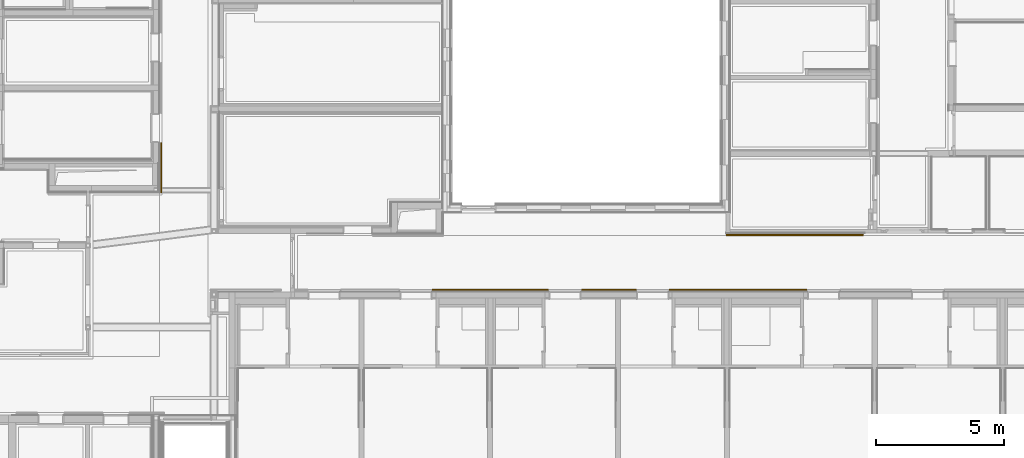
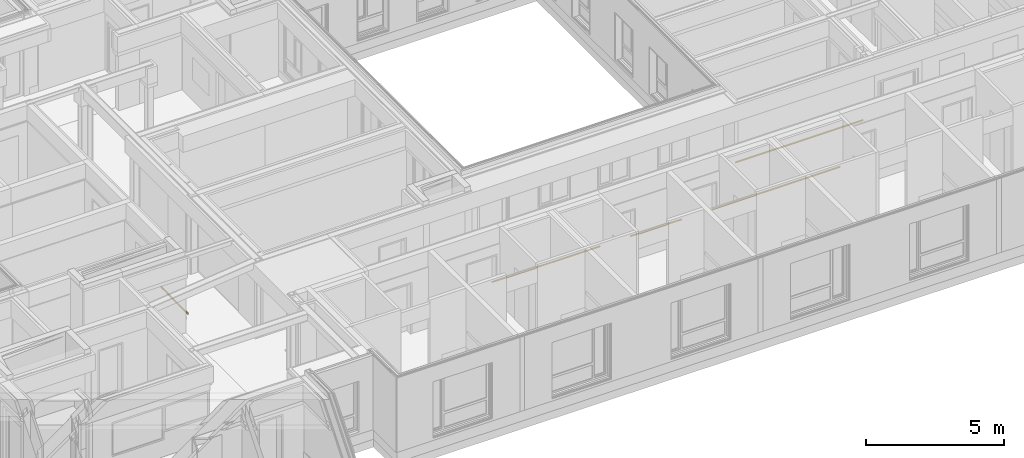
# One storey, part 200 of 207: 5 railings, 5 elements without a shape of their own.
"""IFC4 building model written with IfcOpenShell, lengths in metres."""

from ifc_helpers import new_model, entity, si_unit, converted_unit, derived_unit, frame, origin, place, context, subcontext, project, spatial, faceted_brep, material, element, aggregate, save


model = new_model("IFC4")

# Units and contexts
model_context = context("Model", 3, precision=1e-05, world=origin())
body_context = subcontext(model_context, "Body", "Model", "MODEL_VIEW")
ifc_project = project(units=[si_unit("LENGTHUNIT", "METRE"), si_unit("AREAUNIT", "SQUARE_METRE"), si_unit("VOLUMEUNIT", "CUBIC_METRE"), si_unit("MASSUNIT", "GRAM", prefix="KILO"), converted_unit("PLANEANGLEUNIT", "DEGREE", entity("IfcPlaneAngleMeasure", 0.0174532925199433), si_unit("PLANEANGLEUNIT", "RADIAN"), dimensions=[0, 0, 0, 0, 0, 0, 0]), derived_unit("THERMALTRANSMITTANCEUNIT", [(si_unit("POWERUNIT", "WATT"), 1), (si_unit("THERMODYNAMICTEMPERATUREUNIT", "KELVIN"), -1), (si_unit("LENGTHUNIT", "METRE"), -2)]), derived_unit("VOLUMETRICFLOWRATEUNIT", [(si_unit("LENGTHUNIT", "METRE"), 3), (converted_unit("TIMEUNIT", "hour", entity("IfcTimeMeasure", 3600.0), si_unit("TIMEUNIT", "SECOND"), dimensions=[0, 0, 1, 0, 0, 0, 0]), -1), (si_unit("LENGTHUNIT", "METRE"), -1)])], contexts=[model_context])

# Site, building, storey
site_placement = place(None, origin())
site = spatial("IfcSite", under=ifc_project, at=site_placement, Name="Psychiatrie Neubau Wunstorf", CompositionType="ELEMENT")
building_placement = place(site_placement, origin())
building = spatial("IfcBuilding", under=site, at=building_placement, Name="Neubau H2 Stationsgebäude", CompositionType="ELEMENT")
storey_placement = place(building_placement, frame((0.0, 0.0, -0.2)))
storey = spatial("IfcBuildingStorey", under=building, at=storey_placement, Name="H2 Ebene 0", CompositionType="ELEMENT", Elevation=-0.2)

# Assembly, railing
assembly_1_placement = place(storey_placement, frame((0.0, 0.0, 0.2)))
assembly_1 = element("IfcElementAssembly", 1, at=assembly_1_placement, inside=storey, Name="Geländer+Abstand", PredefinedType="NOTDEFINED")
ifc_material_1 = material(Name="Holz")
railing_1_placement = place(assembly_1_placement, frame((68.1675, 9.20500005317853, 0.8)))
railing_1 = element("IfcRailing", 2, at=railing_1_placement, material=ifc_material_1, context=body_context, shape_type="Brep", body=[
    faceted_brep([(0.0250000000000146, 0.0, 0.0498968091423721), (0.0293232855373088, 0.0, 0.0495185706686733), (0.0335152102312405, 0.0, 0.0483953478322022), (0.0374484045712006, 0.0, 0.0465612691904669), (0.0410033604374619, 0.0, 0.0440720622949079), (0.0440720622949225, 0.0, 0.0410033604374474), (0.0465612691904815, 0.0, 0.0374484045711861), (0.0483953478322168, 0.0, 0.0335152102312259), (0.0495185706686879, 0.0, 0.0293232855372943), (0.0498968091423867, 0.0, 0.025), (0.0495185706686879, 0.0, 0.0206767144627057), (0.0483953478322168, 0.0, 0.0164847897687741), (0.0465612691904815, 0.0, 0.0125515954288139), (0.0440720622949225, 0.0, 0.00899663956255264), (0.0410033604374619, 0.0, 0.00592793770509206), (0.0374484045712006, 0.0, 0.00343873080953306), (0.0335152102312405, 0.0, 0.00160465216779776), (0.0293232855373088, 0.0, 0.000481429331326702), (0.0250000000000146, 0.0, 0.000103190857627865), (0.0206767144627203, 0.0, 0.000481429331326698), (0.0164847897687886, 0.0, 0.00160465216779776), (0.0125515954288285, 0.0, 0.00343873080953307), (0.00899663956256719, 0.0, 0.00592793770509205), (0.00592793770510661, 0.0, 0.00899663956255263), (0.00343873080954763, 0.0, 0.0125515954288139), (0.00160465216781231, 0.0, 0.0164847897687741), (0.000481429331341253, 0.0, 0.0206767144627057), (0.000103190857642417, 0.0, 0.025), (0.00048142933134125, 0.0, 0.0293232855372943), (0.00160465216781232, 0.0, 0.0335152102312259), (0.00343873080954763, 0.0, 0.0374484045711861), (0.0059279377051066, 0.0, 0.0410033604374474), (0.00899663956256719, 0.0, 0.0440720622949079), (0.0125515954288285, 0.0, 0.0465612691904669), (0.0164847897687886, 0.0, 0.0483953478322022), (0.0206767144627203, 0.0, 0.0495185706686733), (0.0250000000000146, 1.93857165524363, 0.0498968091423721), (0.0206767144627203, 1.93857165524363, 0.0495185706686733), (0.0164847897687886, 1.93857165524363, 0.0483953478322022), (0.0125515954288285, 1.93857165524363, 0.0465612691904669), (0.00899663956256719, 1.93857165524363, 0.0440720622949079), (0.0059279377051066, 1.93857165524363, 0.0410033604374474), (0.00343873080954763, 1.93857165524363, 0.0374484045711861), (0.00160465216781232, 1.93857165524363, 0.0335152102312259), (0.00048142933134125, 1.93857165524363, 0.0293232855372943), (0.000103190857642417, 1.93857165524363, 0.025), (0.000481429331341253, 1.93857165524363, 0.0206767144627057), (0.00160465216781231, 1.93857165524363, 0.0164847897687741), (0.00343873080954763, 1.93857165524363, 0.0125515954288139), (0.00592793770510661, 1.93857165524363, 0.00899663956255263), (0.00899663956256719, 1.93857165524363, 0.00592793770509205), (0.0125515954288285, 1.93857165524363, 0.00343873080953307), (0.0164847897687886, 1.93857165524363, 0.00160465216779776), (0.0206767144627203, 1.93857165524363, 0.000481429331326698), (0.0250000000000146, 1.93857165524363, 0.000103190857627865), (0.0293232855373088, 1.93857165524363, 0.000481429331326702), (0.0335152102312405, 1.93857165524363, 0.00160465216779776), (0.0374484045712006, 1.93857165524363, 0.00343873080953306), (0.0410033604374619, 1.93857165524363, 0.00592793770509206), (0.0440720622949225, 1.93857165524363, 0.00899663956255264), (0.0465612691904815, 1.93857165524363, 0.0125515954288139), (0.0483953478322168, 1.93857165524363, 0.0164847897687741), (0.0495185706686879, 1.93857165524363, 0.0206767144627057), (0.0498968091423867, 1.93857165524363, 0.025), (0.0495185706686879, 1.93857165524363, 0.0293232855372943), (0.0483953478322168, 1.93857165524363, 0.0335152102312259), (0.0465612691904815, 1.93857165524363, 0.0374484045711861), (0.0440720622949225, 1.93857165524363, 0.0410033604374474), (0.0410033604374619, 1.93857165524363, 0.0440720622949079), (0.0374484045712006, 1.93857165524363, 0.0465612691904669), (0.0335152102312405, 1.93857165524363, 0.0483953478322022), (0.0293232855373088, 1.93857165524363, 0.0495185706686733)], [[[0, 1, 2, 3, 4, 5, 6, 7, 8, 9, 10, 11, 12, 13, 14, 15, 16, 17, 18, 19, 20, 21, 22, 23, 24, 25, 26, 27, 28, 29, 30, 31, 32, 33, 34, 35]], [[36, 37, 38, 39, 40, 41, 42, 43, 44, 45, 46, 47, 48, 49, 50, 51, 52, 53, 54, 55, 56, 57, 58, 59, 60, 61, 62, 63, 64, 65, 66, 67, 68, 69, 70, 71]], [[1, 0, 36, 71]], [[2, 1, 71, 70]], [[3, 2, 70, 69]], [[4, 3, 69, 68]], [[5, 4, 68, 67]], [[6, 5, 67, 66]], [[7, 6, 66, 65]], [[8, 7, 65, 64]], [[9, 8, 64, 63]], [[10, 9, 63, 62]], [[11, 10, 62, 61]], [[12, 11, 61, 60]], [[13, 12, 60, 59]], [[14, 13, 59, 58]], [[15, 14, 58, 57]], [[16, 15, 57, 56]], [[17, 16, 56, 55]], [[18, 17, 55, 54]], [[19, 18, 54, 53]], [[20, 19, 53, 52]], [[21, 20, 52, 51]], [[22, 21, 51, 50]], [[23, 22, 50, 49]], [[24, 23, 49, 48]], [[25, 24, 48, 47]], [[26, 25, 47, 46]], [[27, 26, 46, 45]], [[28, 27, 45, 44]], [[29, 28, 44, 43]], [[30, 29, 43, 42]], [[31, 30, 42, 41]], [[32, 31, 41, 40]], [[33, 32, 40, 39]], [[34, 33, 39, 38]], [[35, 34, 38, 37]], [[0, 35, 37, 36]]], orient=[[False], [False], [False], [False], [False], [False], [False], [False], [False], [False], [False], [False], [False], [False], [False], [False], [False], [False], [False], [False], [False], [False], [False], [False], [False], [False], [False], [False], [False], [False], [False], [False], [False], [False], [False], [False], [False], [False]]),
])
aggregate(assembly_1, [railing_1])

assembly_2_placement = place(storey_placement, frame((0.0, 0.0, 0.2)))
assembly_2 = element("IfcElementAssembly", 3, at=assembly_2_placement, inside=storey, Name="Geländer+Abstand", PredefinedType="NOTDEFINED")
ifc_material_2 = material(Name="Holz")
railing_2_placement = place(assembly_2_placement, frame((78.765, 5.3825, 0.8)))
railing_2 = element("IfcRailing", 4, at=railing_2_placement, material=ifc_material_2, context=body_context, shape_type="Brep", body=[
    faceted_brep([(4.51999999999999, 0.000103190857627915, 0.025), (4.51999999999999, 0.000481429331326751, 0.0293232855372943), (4.51999999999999, 0.00160465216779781, 0.0335152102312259), (4.51999999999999, 0.00343873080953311, 0.0374484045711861), (4.51999999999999, 0.00592793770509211, 0.0410033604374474), (4.51999999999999, 0.00899663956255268, 0.0440720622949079), (4.51999999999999, 0.012551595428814, 0.0465612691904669), (4.51999999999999, 0.0164847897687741, 0.0483953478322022), (4.51999999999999, 0.0206767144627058, 0.0495185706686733), (4.51999999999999, 0.025, 0.0498968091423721), (4.51999999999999, 0.0293232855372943, 0.0495185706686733), (4.51999999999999, 0.033515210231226, 0.0483953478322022), (4.51999999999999, 0.0374484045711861, 0.0465612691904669), (4.51999999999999, 0.0410033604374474, 0.0440720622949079), (4.51999999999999, 0.044072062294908, 0.0410033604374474), (4.51999999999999, 0.046561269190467, 0.0374484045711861), (4.51999999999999, 0.0483953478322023, 0.0335152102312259), (4.51999999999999, 0.0495185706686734, 0.0293232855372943), (4.51999999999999, 0.0498968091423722, 0.025), (4.51999999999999, 0.0495185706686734, 0.0206767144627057), (4.51999999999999, 0.0483953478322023, 0.0164847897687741), (4.51999999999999, 0.046561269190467, 0.0125515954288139), (4.51999999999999, 0.044072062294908, 0.00899663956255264), (4.51999999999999, 0.0410033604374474, 0.00592793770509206), (4.51999999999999, 0.0374484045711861, 0.00343873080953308), (4.51999999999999, 0.033515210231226, 0.00160465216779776), (4.51999999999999, 0.0293232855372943, 0.000481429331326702), (4.51999999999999, 0.0250000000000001, 0.000103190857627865), (4.51999999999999, 0.0206767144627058, 0.000481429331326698), (4.51999999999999, 0.0164847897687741, 0.00160465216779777), (4.51999999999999, 0.012551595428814, 0.00343873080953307), (4.51999999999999, 0.00899663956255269, 0.00592793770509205), (4.51999999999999, 0.00592793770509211, 0.00899663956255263), (4.51999999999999, 0.00343873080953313, 0.0125515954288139), (4.51999999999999, 0.00160465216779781, 0.0164847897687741), (4.51999999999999, 0.000481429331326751, 0.0206767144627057), (0.0, 0.000103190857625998, 0.025), (0.0, 0.000481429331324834, 0.0206767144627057), (0.0, 0.0016046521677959, 0.0164847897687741), (0.0, 0.00343873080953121, 0.0125515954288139), (0.0, 0.00592793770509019, 0.00899663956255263), (0.0, 0.00899663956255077, 0.00592793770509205), (0.0, 0.0125515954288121, 0.00343873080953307), (0.0, 0.0164847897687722, 0.00160465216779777), (0.0, 0.0206767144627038, 0.000481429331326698), (0.0, 0.0249999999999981, 0.000103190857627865), (0.0, 0.0293232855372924, 0.000481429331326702), (0.0, 0.0335152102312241, 0.00160465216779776), (0.0, 0.0374484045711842, 0.00343873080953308), (0.0, 0.0410033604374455, 0.00592793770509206), (0.0, 0.0440720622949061, 0.00899663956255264), (0.0, 0.0465612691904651, 0.0125515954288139), (0.0, 0.0483953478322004, 0.0164847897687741), (0.0, 0.0495185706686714, 0.0206767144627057), (0.0, 0.0498968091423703, 0.025), (0.0, 0.0495185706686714, 0.0293232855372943), (0.0, 0.0483953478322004, 0.0335152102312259), (0.0, 0.0465612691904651, 0.0374484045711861), (0.0, 0.0440720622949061, 0.0410033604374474), (0.0, 0.0410033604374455, 0.0440720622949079), (0.0, 0.0374484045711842, 0.0465612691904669), (0.0, 0.0335152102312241, 0.0483953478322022), (0.0, 0.0293232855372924, 0.0495185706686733), (0.0, 0.0249999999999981, 0.0498968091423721), (0.0, 0.0206767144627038, 0.0495185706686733), (0.0, 0.0164847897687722, 0.0483953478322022), (0.0, 0.0125515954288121, 0.0465612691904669), (0.0, 0.00899663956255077, 0.0440720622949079), (0.0, 0.00592793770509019, 0.0410033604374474), (0.0, 0.0034387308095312, 0.0374484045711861), (0.0, 0.0016046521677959, 0.0335152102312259), (0.0, 0.000481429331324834, 0.0293232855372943)], [[[0, 1, 2, 3, 4, 5, 6, 7, 8, 9, 10, 11, 12, 13, 14, 15, 16, 17, 18, 19, 20, 21, 22, 23, 24, 25, 26, 27, 28, 29, 30, 31, 32, 33, 34, 35]], [[36, 37, 38, 39, 40, 41, 42, 43, 44, 45, 46, 47, 48, 49, 50, 51, 52, 53, 54, 55, 56, 57, 58, 59, 60, 61, 62, 63, 64, 65, 66, 67, 68, 69, 70, 71]], [[1, 0, 36, 71]], [[2, 1, 71, 70]], [[3, 2, 70, 69]], [[4, 3, 69, 68]], [[5, 4, 68, 67]], [[6, 5, 67, 66]], [[7, 6, 66, 65]], [[8, 7, 65, 64]], [[9, 8, 64, 63]], [[10, 9, 63, 62]], [[11, 10, 62, 61]], [[12, 11, 61, 60]], [[13, 12, 60, 59]], [[14, 13, 59, 58]], [[15, 14, 58, 57]], [[16, 15, 57, 56]], [[17, 16, 56, 55]], [[18, 17, 55, 54]], [[19, 18, 54, 53]], [[20, 19, 53, 52]], [[21, 20, 52, 51]], [[22, 21, 51, 50]], [[23, 22, 50, 49]], [[24, 23, 49, 48]], [[25, 24, 48, 47]], [[26, 25, 47, 46]], [[27, 26, 46, 45]], [[28, 27, 45, 44]], [[29, 28, 44, 43]], [[30, 29, 43, 42]], [[31, 30, 42, 41]], [[32, 31, 41, 40]], [[33, 32, 40, 39]], [[34, 33, 39, 38]], [[35, 34, 38, 37]], [[0, 35, 37, 36]]], orient=[[False], [False], [False], [False], [False], [False], [False], [False], [False], [False], [False], [False], [False], [False], [False], [False], [False], [False], [False], [False], [False], [False], [False], [False], [False], [False], [False], [False], [False], [False], [False], [False], [False], [False], [False], [False], [False], [False]]),
])
aggregate(assembly_2, [railing_2])

assembly_3_placement = place(storey_placement, frame((0.0, 0.0, 0.2)))
assembly_3 = element("IfcElementAssembly", 5, at=assembly_3_placement, inside=storey, Name="Geländer+Abstand", PredefinedType="NOTDEFINED")
ifc_material_3 = material(Name="Holz")
railing_3_placement = place(assembly_3_placement, frame((84.575, 5.3825, 0.8)))
railing_3 = element("IfcRailing", 6, at=railing_3_placement, material=ifc_material_3, context=body_context, shape_type="Brep", body=[
    faceted_brep([(2.12500004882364, 0.000103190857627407, 0.025), (2.12500004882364, 0.000481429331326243, 0.0293232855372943), (2.12500004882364, 0.0016046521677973, 0.0335152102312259), (2.12500004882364, 0.0034387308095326, 0.0374484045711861), (2.12500004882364, 0.0059279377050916, 0.0410033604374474), (2.12500004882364, 0.00899663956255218, 0.0440720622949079), (2.12500004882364, 0.0125515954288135, 0.0465612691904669), (2.12500004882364, 0.0164847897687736, 0.0483953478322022), (2.12500004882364, 0.0206767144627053, 0.0495185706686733), (2.12500004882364, 0.0249999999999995, 0.0498968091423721), (2.12500004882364, 0.0293232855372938, 0.0495185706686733), (2.12500004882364, 0.0335152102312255, 0.0483953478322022), (2.12500004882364, 0.0374484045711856, 0.0465612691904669), (2.12500004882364, 0.0410033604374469, 0.0440720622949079), (2.12500004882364, 0.0440720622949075, 0.0410033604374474), (2.12500004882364, 0.0465612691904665, 0.0374484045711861), (2.12500004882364, 0.0483953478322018, 0.0335152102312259), (2.12500004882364, 0.0495185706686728, 0.0293232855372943), (2.12500004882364, 0.0498968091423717, 0.025), (2.12500004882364, 0.0495185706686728, 0.0206767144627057), (2.12500004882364, 0.0483953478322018, 0.0164847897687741), (2.12500004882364, 0.0465612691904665, 0.0125515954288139), (2.12500004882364, 0.0440720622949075, 0.00899663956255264), (2.12500004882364, 0.0410033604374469, 0.00592793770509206), (2.12500004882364, 0.0374484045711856, 0.00343873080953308), (2.12500004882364, 0.0335152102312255, 0.00160465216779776), (2.12500004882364, 0.0293232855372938, 0.000481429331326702), (2.12500004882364, 0.0249999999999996, 0.000103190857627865), (2.12500004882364, 0.0206767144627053, 0.000481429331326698), (2.12500004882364, 0.0164847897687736, 0.00160465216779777), (2.12500004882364, 0.0125515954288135, 0.00343873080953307), (2.12500004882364, 0.00899663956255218, 0.00592793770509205), (2.12500004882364, 0.0059279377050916, 0.00899663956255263), (2.12500004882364, 0.00343873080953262, 0.0125515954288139), (2.12500004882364, 0.0016046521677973, 0.0164847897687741), (2.12500004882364, 0.000481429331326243, 0.0206767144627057), (0.0, 0.000103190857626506, 0.025), (0.0, 0.000481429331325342, 0.0206767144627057), (0.0, 0.0016046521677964, 0.0164847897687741), (0.0, 0.00343873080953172, 0.0125515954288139), (0.0, 0.0059279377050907, 0.00899663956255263), (0.0, 0.00899663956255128, 0.00592793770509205), (0.0, 0.0125515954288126, 0.00343873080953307), (0.0, 0.0164847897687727, 0.00160465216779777), (0.0, 0.0206767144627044, 0.000481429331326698), (0.0, 0.0249999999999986, 0.000103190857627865), (0.0, 0.0293232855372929, 0.000481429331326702), (0.0, 0.0335152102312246, 0.00160465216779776), (0.0, 0.0374484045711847, 0.00343873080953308), (0.0, 0.041003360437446, 0.00592793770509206), (0.0, 0.0440720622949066, 0.00899663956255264), (0.0, 0.0465612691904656, 0.0125515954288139), (0.0, 0.0483953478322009, 0.0164847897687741), (0.0, 0.0495185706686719, 0.0206767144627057), (0.0, 0.0498968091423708, 0.025), (0.0, 0.0495185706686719, 0.0293232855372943), (0.0, 0.0483953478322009, 0.0335152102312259), (0.0, 0.0465612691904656, 0.0374484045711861), (0.0, 0.0440720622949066, 0.0410033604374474), (0.0, 0.041003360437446, 0.0440720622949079), (0.0, 0.0374484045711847, 0.0465612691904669), (0.0, 0.0335152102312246, 0.0483953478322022), (0.0, 0.0293232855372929, 0.0495185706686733), (0.0, 0.0249999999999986, 0.0498968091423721), (0.0, 0.0206767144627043, 0.0495185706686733), (0.0, 0.0164847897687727, 0.0483953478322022), (0.0, 0.0125515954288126, 0.0465612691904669), (0.0, 0.00899663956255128, 0.0440720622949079), (0.0, 0.0059279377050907, 0.0410033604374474), (0.0, 0.0034387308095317, 0.0374484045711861), (0.0, 0.0016046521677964, 0.0335152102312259), (0.0, 0.000481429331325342, 0.0293232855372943)], [[[0, 1, 2, 3, 4, 5, 6, 7, 8, 9, 10, 11, 12, 13, 14, 15, 16, 17, 18, 19, 20, 21, 22, 23, 24, 25, 26, 27, 28, 29, 30, 31, 32, 33, 34, 35]], [[36, 37, 38, 39, 40, 41, 42, 43, 44, 45, 46, 47, 48, 49, 50, 51, 52, 53, 54, 55, 56, 57, 58, 59, 60, 61, 62, 63, 64, 65, 66, 67, 68, 69, 70, 71]], [[1, 0, 36, 71]], [[2, 1, 71, 70]], [[3, 2, 70, 69]], [[4, 3, 69, 68]], [[5, 4, 68, 67]], [[6, 5, 67, 66]], [[7, 6, 66, 65]], [[8, 7, 65, 64]], [[9, 8, 64, 63]], [[10, 9, 63, 62]], [[11, 10, 62, 61]], [[12, 11, 61, 60]], [[13, 12, 60, 59]], [[14, 13, 59, 58]], [[15, 14, 58, 57]], [[16, 15, 57, 56]], [[17, 16, 56, 55]], [[18, 17, 55, 54]], [[19, 18, 54, 53]], [[20, 19, 53, 52]], [[21, 20, 52, 51]], [[22, 21, 51, 50]], [[23, 22, 50, 49]], [[24, 23, 49, 48]], [[25, 24, 48, 47]], [[26, 25, 47, 46]], [[27, 26, 46, 45]], [[28, 27, 45, 44]], [[29, 28, 44, 43]], [[30, 29, 43, 42]], [[31, 30, 42, 41]], [[32, 31, 41, 40]], [[33, 32, 40, 39]], [[34, 33, 39, 38]], [[35, 34, 38, 37]], [[0, 35, 37, 36]]], orient=[[False], [False], [False], [False], [False], [False], [False], [False], [False], [False], [False], [False], [False], [False], [False], [False], [False], [False], [False], [False], [False], [False], [False], [False], [False], [False], [False], [False], [False], [False], [False], [False], [False], [False], [False], [False], [False], [False]]),
])
aggregate(assembly_3, [railing_3])

assembly_4_placement = place(storey_placement, frame((0.0, 0.0, 0.2)))
assembly_4 = element("IfcElementAssembly", 7, at=assembly_4_placement, inside=storey, Name="Geländer+Abstand", PredefinedType="NOTDEFINED")
ifc_material_4 = material(Name="Holz")
railing_4_placement = place(assembly_4_placement, frame((87.9900000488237, 5.3825, 0.8)))
railing_4 = element("IfcRailing", 8, at=railing_4_placement, material=ifc_material_4, context=body_context, shape_type="Brep", body=[
    faceted_brep([(5.36999999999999, 0.000103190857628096, 0.025), (5.36999999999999, 0.000481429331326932, 0.0293232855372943), (5.36999999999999, 0.00160465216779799, 0.0335152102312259), (5.36999999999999, 0.00343873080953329, 0.0374484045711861), (5.36999999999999, 0.00592793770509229, 0.0410033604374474), (5.36999999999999, 0.00899663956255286, 0.0440720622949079), (5.36999999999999, 0.0125515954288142, 0.0465612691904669), (5.36999999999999, 0.0164847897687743, 0.0483953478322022), (5.36999999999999, 0.0206767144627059, 0.0495185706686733), (5.36999999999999, 0.0250000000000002, 0.0498968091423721), (5.36999999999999, 0.0293232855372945, 0.0495185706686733), (5.36999999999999, 0.0335152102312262, 0.0483953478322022), (5.36999999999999, 0.0374484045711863, 0.0465612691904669), (5.36999999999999, 0.0410033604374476, 0.0440720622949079), (5.36999999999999, 0.0440720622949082, 0.0410033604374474), (5.36999999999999, 0.0465612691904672, 0.0374484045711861), (5.36999999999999, 0.0483953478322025, 0.0335152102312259), (5.36999999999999, 0.0495185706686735, 0.0293232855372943), (5.36999999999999, 0.0498968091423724, 0.025), (5.36999999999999, 0.0495185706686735, 0.0206767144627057), (5.36999999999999, 0.0483953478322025, 0.0164847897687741), (5.36999999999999, 0.0465612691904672, 0.0125515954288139), (5.36999999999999, 0.0440720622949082, 0.00899663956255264), (5.36999999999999, 0.0410033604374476, 0.00592793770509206), (5.36999999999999, 0.0374484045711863, 0.00343873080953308), (5.36999999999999, 0.0335152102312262, 0.00160465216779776), (5.36999999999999, 0.0293232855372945, 0.000481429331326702), (5.36999999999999, 0.0250000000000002, 0.000103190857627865), (5.36999999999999, 0.0206767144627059, 0.000481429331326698), (5.36999999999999, 0.0164847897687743, 0.00160465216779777), (5.36999999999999, 0.0125515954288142, 0.00343873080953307), (5.36999999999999, 0.00899663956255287, 0.00592793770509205), (5.36999999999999, 0.00592793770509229, 0.00899663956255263), (5.36999999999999, 0.00343873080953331, 0.0125515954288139), (5.36999999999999, 0.00160465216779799, 0.0164847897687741), (5.36999999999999, 0.000481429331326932, 0.0206767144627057), (0.0, 0.000103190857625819, 0.025), (0.0, 0.000481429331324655, 0.0206767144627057), (0.0, 0.00160465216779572, 0.0164847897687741), (0.0, 0.00343873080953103, 0.0125515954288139), (0.0, 0.00592793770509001, 0.00899663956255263), (0.0, 0.0089966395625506, 0.00592793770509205), (0.0, 0.0125515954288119, 0.00343873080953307), (0.0, 0.016484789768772, 0.00160465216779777), (0.0, 0.0206767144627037, 0.000481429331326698), (0.0, 0.024999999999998, 0.000103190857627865), (0.0, 0.0293232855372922, 0.000481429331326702), (0.0, 0.0335152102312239, 0.00160465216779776), (0.0, 0.037448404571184, 0.00343873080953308), (0.0, 0.0410033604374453, 0.00592793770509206), (0.0, 0.0440720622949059, 0.00899663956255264), (0.0, 0.0465612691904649, 0.0125515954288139), (0.0, 0.0483953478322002, 0.0164847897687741), (0.0, 0.0495185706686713, 0.0206767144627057), (0.0, 0.0498968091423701, 0.025), (0.0, 0.0495185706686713, 0.0293232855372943), (0.0, 0.0483953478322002, 0.0335152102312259), (0.0, 0.0465612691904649, 0.0374484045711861), (0.0, 0.0440720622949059, 0.0410033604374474), (0.0, 0.0410033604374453, 0.0440720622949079), (0.0, 0.037448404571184, 0.0465612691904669), (0.0, 0.0335152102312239, 0.0483953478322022), (0.0, 0.0293232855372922, 0.0495185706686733), (0.0, 0.024999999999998, 0.0498968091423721), (0.0, 0.0206767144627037, 0.0495185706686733), (0.0, 0.016484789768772, 0.0483953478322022), (0.0, 0.0125515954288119, 0.0465612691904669), (0.0, 0.00899663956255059, 0.0440720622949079), (0.0, 0.00592793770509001, 0.0410033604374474), (0.0, 0.00343873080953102, 0.0374484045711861), (0.0, 0.00160465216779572, 0.0335152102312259), (0.0, 0.000481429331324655, 0.0293232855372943)], [[[0, 1, 2, 3, 4, 5, 6, 7, 8, 9, 10, 11, 12, 13, 14, 15, 16, 17, 18, 19, 20, 21, 22, 23, 24, 25, 26, 27, 28, 29, 30, 31, 32, 33, 34, 35]], [[36, 37, 38, 39, 40, 41, 42, 43, 44, 45, 46, 47, 48, 49, 50, 51, 52, 53, 54, 55, 56, 57, 58, 59, 60, 61, 62, 63, 64, 65, 66, 67, 68, 69, 70, 71]], [[1, 0, 36, 71]], [[2, 1, 71, 70]], [[3, 2, 70, 69]], [[4, 3, 69, 68]], [[5, 4, 68, 67]], [[6, 5, 67, 66]], [[7, 6, 66, 65]], [[8, 7, 65, 64]], [[9, 8, 64, 63]], [[10, 9, 63, 62]], [[11, 10, 62, 61]], [[12, 11, 61, 60]], [[13, 12, 60, 59]], [[14, 13, 59, 58]], [[15, 14, 58, 57]], [[16, 15, 57, 56]], [[17, 16, 56, 55]], [[18, 17, 55, 54]], [[19, 18, 54, 53]], [[20, 19, 53, 52]], [[21, 20, 52, 51]], [[22, 21, 51, 50]], [[23, 22, 50, 49]], [[24, 23, 49, 48]], [[25, 24, 48, 47]], [[26, 25, 47, 46]], [[27, 26, 46, 45]], [[28, 27, 45, 44]], [[29, 28, 44, 43]], [[30, 29, 43, 42]], [[31, 30, 42, 41]], [[32, 31, 41, 40]], [[33, 32, 40, 39]], [[34, 33, 39, 38]], [[35, 34, 38, 37]], [[0, 35, 37, 36]]], orient=[[False], [False], [False], [False], [False], [False], [False], [False], [False], [False], [False], [False], [False], [False], [False], [False], [False], [False], [False], [False], [False], [False], [False], [False], [False], [False], [False], [False], [False], [False], [False], [False], [False], [False], [False], [False], [False], [False]]),
])
aggregate(assembly_4, [railing_4])

assembly_5_placement = place(storey_placement, frame((0.0, 0.0, 0.2)))
assembly_5 = element("IfcElementAssembly", 9, at=assembly_5_placement, inside=storey, Name="Geländer+Abstand", PredefinedType="NOTDEFINED")
ifc_material_5 = material(Name="Holz")
railing_5_placement = place(assembly_5_placement, frame((90.211, 7.52499989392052, 0.8)))
railing_5 = element("IfcRailing", 10, at=railing_5_placement, material=ifc_material_5, context=body_context, shape_type="Brep", body=[
    faceted_brep([(0.0, 0.0498968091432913, 0.025), (0.0, 0.0495185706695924, 0.0293232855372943), (0.0, 0.0483953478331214, 0.0335152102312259), (0.0, 0.0465612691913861, 0.0374484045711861), (0.0, 0.0440720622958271, 0.0410033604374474), (0.0, 0.0410033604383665, 0.0440720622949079), (0.0, 0.0374484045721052, 0.0465612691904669), (0.0, 0.0335152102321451, 0.0483953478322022), (0.0, 0.0293232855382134, 0.0495185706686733), (0.0, 0.0250000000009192, 0.0498968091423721), (0.0, 0.0206767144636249, 0.0495185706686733), (0.0, 0.0164847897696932, 0.0483953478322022), (0.0, 0.0125515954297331, 0.0465612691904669), (0.0, 0.00899663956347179, 0.0440720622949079), (0.0, 0.0059279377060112, 0.0410033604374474), (0.0, 0.00343873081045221, 0.0374484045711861), (0.0, 0.00160465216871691, 0.0335152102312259), (0.0, 0.000481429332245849, 0.0293232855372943), (0.0, 0.000103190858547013, 0.025), (0.0, 0.000481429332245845, 0.0206767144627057), (0.0, 0.00160465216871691, 0.0164847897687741), (0.0, 0.00343873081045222, 0.0125515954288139), (0.0, 0.0059279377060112, 0.00899663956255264), (0.0, 0.00899663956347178, 0.00592793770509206), (0.0, 0.0125515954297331, 0.00343873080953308), (0.0, 0.0164847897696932, 0.00160465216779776), (0.0, 0.0206767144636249, 0.000481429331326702), (0.0, 0.0250000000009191, 0.000103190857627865), (0.0, 0.0293232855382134, 0.000481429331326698), (0.0, 0.0335152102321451, 0.00160465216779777), (0.0, 0.0374484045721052, 0.00343873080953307), (0.0, 0.0410033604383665, 0.00592793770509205), (0.0, 0.0440720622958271, 0.00899663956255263), (0.0, 0.0465612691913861, 0.0125515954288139), (0.0, 0.0483953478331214, 0.0164847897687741), (0.0, 0.0495185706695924, 0.0206767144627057), (5.34999999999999, 0.0498968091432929, 0.025), (5.34999999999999, 0.0495185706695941, 0.0206767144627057), (5.34999999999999, 0.048395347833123, 0.0164847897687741), (5.34999999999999, 0.0465612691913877, 0.0125515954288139), (5.34999999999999, 0.0440720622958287, 0.00899663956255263), (5.34999999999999, 0.0410033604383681, 0.00592793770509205), (5.34999999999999, 0.0374484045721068, 0.00343873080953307), (5.34999999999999, 0.0335152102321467, 0.00160465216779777), (5.34999999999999, 0.029323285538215, 0.000481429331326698), (5.34999999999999, 0.0250000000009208, 0.000103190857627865), (5.34999999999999, 0.0206767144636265, 0.000481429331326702), (5.34999999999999, 0.0164847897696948, 0.00160465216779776), (5.34999999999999, 0.0125515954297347, 0.00343873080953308), (5.34999999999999, 0.00899663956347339, 0.00592793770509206), (5.34999999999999, 0.00592793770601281, 0.00899663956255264), (5.34999999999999, 0.00343873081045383, 0.0125515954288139), (5.34999999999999, 0.00160465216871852, 0.0164847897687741), (5.34999999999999, 0.000481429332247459, 0.0206767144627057), (5.34999999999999, 0.000103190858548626, 0.025), (5.34999999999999, 0.000481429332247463, 0.0293232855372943), (5.34999999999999, 0.00160465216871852, 0.0335152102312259), (5.34999999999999, 0.00343873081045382, 0.0374484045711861), (5.34999999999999, 0.00592793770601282, 0.0410033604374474), (5.34999999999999, 0.0089966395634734, 0.0440720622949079), (5.34999999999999, 0.0125515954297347, 0.0465612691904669), (5.34999999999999, 0.0164847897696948, 0.0483953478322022), (5.34999999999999, 0.0206767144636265, 0.0495185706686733), (5.34999999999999, 0.0250000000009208, 0.0498968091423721), (5.34999999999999, 0.029323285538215, 0.0495185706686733), (5.34999999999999, 0.0335152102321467, 0.0483953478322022), (5.34999999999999, 0.0374484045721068, 0.0465612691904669), (5.34999999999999, 0.0410033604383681, 0.0440720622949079), (5.34999999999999, 0.0440720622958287, 0.0410033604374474), (5.34999999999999, 0.0465612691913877, 0.0374484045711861), (5.34999999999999, 0.048395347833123, 0.0335152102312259), (5.34999999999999, 0.0495185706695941, 0.0293232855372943)], [[[0, 1, 2, 3, 4, 5, 6, 7, 8, 9, 10, 11, 12, 13, 14, 15, 16, 17, 18, 19, 20, 21, 22, 23, 24, 25, 26, 27, 28, 29, 30, 31, 32, 33, 34, 35]], [[36, 37, 38, 39, 40, 41, 42, 43, 44, 45, 46, 47, 48, 49, 50, 51, 52, 53, 54, 55, 56, 57, 58, 59, 60, 61, 62, 63, 64, 65, 66, 67, 68, 69, 70, 71]], [[1, 0, 36, 71]], [[2, 1, 71, 70]], [[3, 2, 70, 69]], [[4, 3, 69, 68]], [[5, 4, 68, 67]], [[6, 5, 67, 66]], [[7, 6, 66, 65]], [[8, 7, 65, 64]], [[9, 8, 64, 63]], [[10, 9, 63, 62]], [[11, 10, 62, 61]], [[12, 11, 61, 60]], [[13, 12, 60, 59]], [[14, 13, 59, 58]], [[15, 14, 58, 57]], [[16, 15, 57, 56]], [[17, 16, 56, 55]], [[18, 17, 55, 54]], [[19, 18, 54, 53]], [[20, 19, 53, 52]], [[21, 20, 52, 51]], [[22, 21, 51, 50]], [[23, 22, 50, 49]], [[24, 23, 49, 48]], [[25, 24, 48, 47]], [[26, 25, 47, 46]], [[27, 26, 46, 45]], [[28, 27, 45, 44]], [[29, 28, 44, 43]], [[30, 29, 43, 42]], [[31, 30, 42, 41]], [[32, 31, 41, 40]], [[33, 32, 40, 39]], [[34, 33, 39, 38]], [[35, 34, 38, 37]], [[0, 35, 37, 36]]], orient=[[False], [False], [False], [False], [False], [False], [False], [False], [False], [False], [False], [False], [False], [False], [False], [False], [False], [False], [False], [False], [False], [False], [False], [False], [False], [False], [False], [False], [False], [False], [False], [False], [False], [False], [False], [False], [False], [False]]),
])
aggregate(assembly_5, [railing_5])

save(model, "model.ifc")
